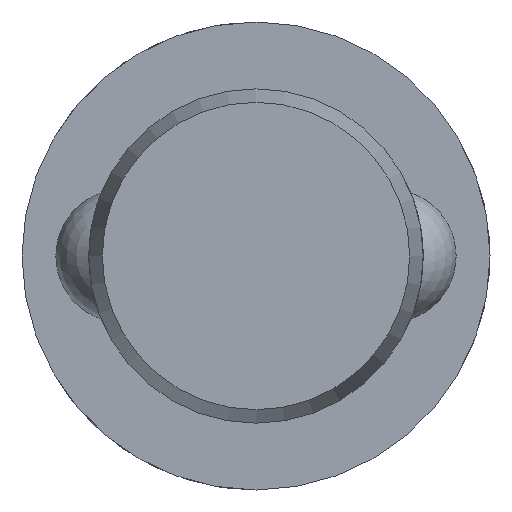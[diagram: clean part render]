
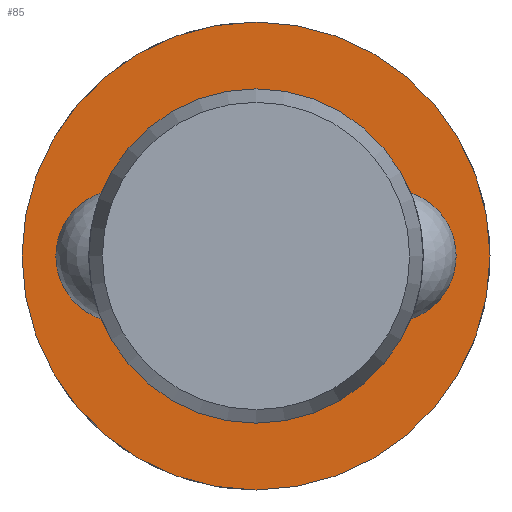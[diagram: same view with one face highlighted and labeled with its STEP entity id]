
A CAD part, left-side view. The second image highlights one B-rep face of the part: STEP entity #85.
In plain terms, the highlighted planar face has unit normal (-1, 0, 0).
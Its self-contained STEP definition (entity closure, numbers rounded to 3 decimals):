
#85 = ADVANCED_FACE( '', ( #130, #131 ), #132, .F. );
#130 = FACE_OUTER_BOUND( '', #200, .T. );
#131 = FACE_BOUND( '', #201, .T. );
#132 = PLANE( '', #202 );
#200 = EDGE_LOOP( '', ( #315 ) );
#201 = EDGE_LOOP( '', ( #316 ) );
#202 = AXIS2_PLACEMENT_3D( '', #317, #318, #319 );
#315 = ORIENTED_EDGE( '', *, *, #458, .F. );
#316 = ORIENTED_EDGE( '', *, *, #455, .T. );
#317 = CARTESIAN_POINT( '', ( 29.6, 5., 0. ) );
#318 = DIRECTION( '', ( 1., 0., 0. ) );
#319 = DIRECTION( '', ( 0., 0., -1. ) );
#455 = EDGE_CURVE( '', #528, #528, #529, .T. );
#458 = EDGE_CURVE( '', #534, #534, #535, .T. );
#528 = VERTEX_POINT( '', #732 );
#529 = CIRCLE( '', #733, 5. );
#534 = VERTEX_POINT( '', #844 );
#535 = CIRCLE( '', #845, 7. );
#732 = CARTESIAN_POINT( '', ( 29.6, 0., -5. ) );
#733 = AXIS2_PLACEMENT_3D( '', #922, #923, #924 );
#844 = CARTESIAN_POINT( '', ( 29.6, 0., -7. ) );
#845 = AXIS2_PLACEMENT_3D( '', #925, #926, #927 );
#922 = CARTESIAN_POINT( '', ( 29.6, 0., 0. ) );
#923 = DIRECTION( '', ( 1., 0., 0. ) );
#924 = DIRECTION( '', ( 0., 0., -1. ) );
#925 = CARTESIAN_POINT( '', ( 29.6, 0., 0. ) );
#926 = DIRECTION( '', ( 1., 0., 0. ) );
#927 = DIRECTION( '', ( 0., 0., -1. ) );
